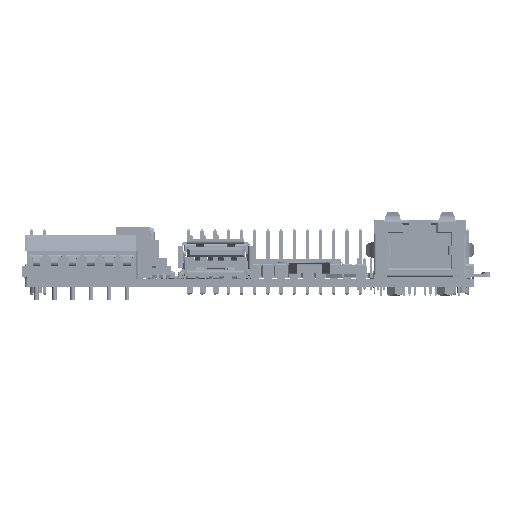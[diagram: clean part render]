
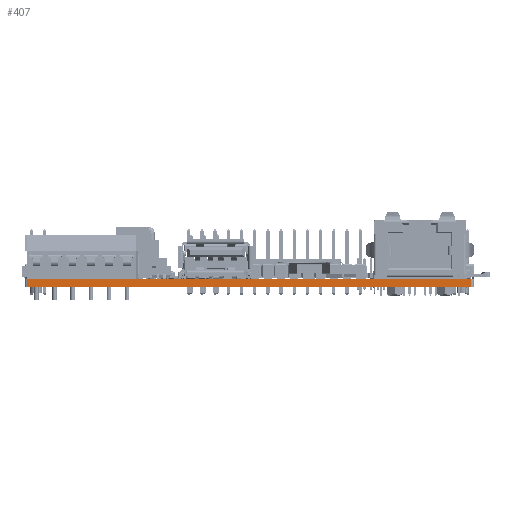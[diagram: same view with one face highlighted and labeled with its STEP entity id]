
A CAD part, left-side view. The second image highlights one B-rep face of the part: STEP entity #407.
In plain terms, the highlighted planar face has unit normal (-1, 0, 0).
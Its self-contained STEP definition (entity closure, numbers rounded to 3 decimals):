
#380 = VERTEX_POINT('',#381);
#381 = CARTESIAN_POINT('',(0.,0.5,1.606));
#388 = EDGE_CURVE('',#389,#380,#391,.T.);
#389 = VERTEX_POINT('',#390);
#390 = CARTESIAN_POINT('',(0.,0.5,0.));
#391 = LINE('',#392,#393);
#392 = CARTESIAN_POINT('',(0.,0.5,0.));
#393 = VECTOR('',#394,1.);
#394 = DIRECTION('',(0.,0.,1.));
#407 = ADVANCED_FACE('',(#408),#433,.T.);
#408 = FACE_BOUND('',#409,.T.);
#409 = EDGE_LOOP('',(#410,#411,#419,#427));
#410 = ORIENTED_EDGE('',*,*,#388,.T.);
#411 = ORIENTED_EDGE('',*,*,#412,.T.);
#412 = EDGE_CURVE('',#380,#413,#415,.T.);
#413 = VERTEX_POINT('',#414);
#414 = CARTESIAN_POINT('',(0.,86.,1.606));
#415 = LINE('',#416,#417);
#416 = CARTESIAN_POINT('',(0.,0.5,1.606));
#417 = VECTOR('',#418,1.);
#418 = DIRECTION('',(0.,1.,0.));
#419 = ORIENTED_EDGE('',*,*,#420,.F.);
#420 = EDGE_CURVE('',#421,#413,#423,.T.);
#421 = VERTEX_POINT('',#422);
#422 = CARTESIAN_POINT('',(0.,86.,0.));
#423 = LINE('',#424,#425);
#424 = CARTESIAN_POINT('',(0.,86.,0.));
#425 = VECTOR('',#426,1.);
#426 = DIRECTION('',(0.,0.,1.));
#427 = ORIENTED_EDGE('',*,*,#428,.F.);
#428 = EDGE_CURVE('',#389,#421,#429,.T.);
#429 = LINE('',#430,#431);
#430 = CARTESIAN_POINT('',(0.,0.5,0.));
#431 = VECTOR('',#432,1.);
#432 = DIRECTION('',(0.,1.,0.));
#433 = PLANE('',#434);
#434 = AXIS2_PLACEMENT_3D('',#435,#436,#437);
#435 = CARTESIAN_POINT('',(0.,0.5,0.));
#436 = DIRECTION('',(-1.,0.,0.));
#437 = DIRECTION('',(0.,1.,0.));
